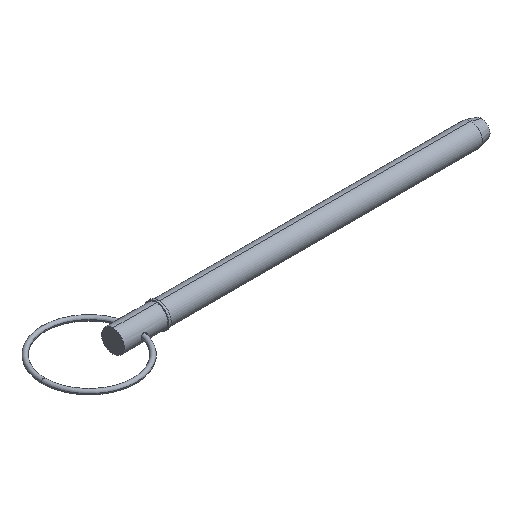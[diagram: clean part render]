
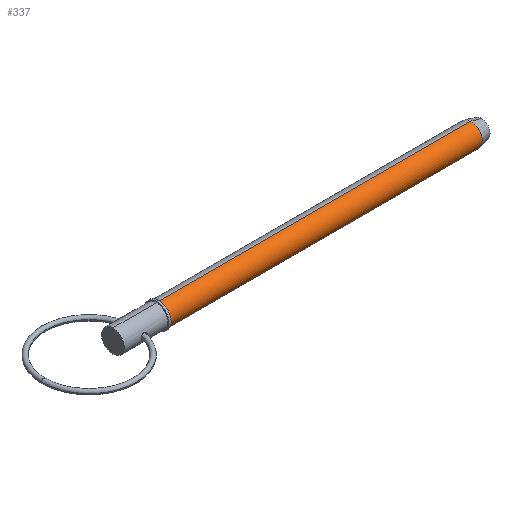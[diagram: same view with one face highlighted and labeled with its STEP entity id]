
A CAD part, isometric view. The second image highlights one B-rep face of the part: STEP entity #337.
In plain terms, the highlighted cylindrical face has radius 6.35 mm (diameter 12.7 mm), a partial arc.
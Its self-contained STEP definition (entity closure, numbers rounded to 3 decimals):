
#31 = DIRECTION ( 'NONE',  ( 0., 0., -1. ) ) ;
#32 = VERTEX_POINT ( 'NONE', #594 ) ;
#37 = CIRCLE ( 'NONE', #865, 6.35 ) ;
#38 = EDGE_LOOP ( 'NONE', ( #410, #492, #361, #437 ) ) ;
#74 = DIRECTION ( 'NONE',  ( 1., 0., 0. ) ) ;
#77 = CARTESIAN_POINT ( 'NONE',  ( 25.7, 0., 0. ) ) ;
#124 = LINE ( 'NONE', #210, #884 ) ;
#154 = AXIS2_PLACEMENT_3D ( 'NONE', #760, #763, #31 ) ;
#157 = EDGE_CURVE ( 'NONE', #32, #505, #124, .T. ) ;
#209 = LINE ( 'NONE', #537, #700 ) ;
#210 = CARTESIAN_POINT ( 'NONE',  ( 0., 0., -6.35 ) ) ;
#247 = FACE_OUTER_BOUND ( 'NONE', #38, .T. ) ;
#260 = CARTESIAN_POINT ( 'NONE',  ( 25.7, 0., 6.35 ) ) ;
#268 = CARTESIAN_POINT ( 'NONE',  ( 200.755, 0., 6.35 ) ) ;
#283 = VERTEX_POINT ( 'NONE', #260 ) ;
#289 = EDGE_CURVE ( 'NONE', #890, #505, #37, .T. ) ;
#297 = EDGE_CURVE ( 'NONE', #283, #32, #735, .T. ) ;
#337 = ADVANCED_FACE ( 'NONE', ( #247 ), #444, .T. ) ;
#361 = ORIENTED_EDGE ( 'NONE', *, *, #157, .T. ) ;
#410 = ORIENTED_EDGE ( 'NONE', *, *, #600, .F. ) ;
#417 = AXIS2_PLACEMENT_3D ( 'NONE', #77, #1050, #970 ) ;
#437 = ORIENTED_EDGE ( 'NONE', *, *, #289, .F. ) ;
#444 = CYLINDRICAL_SURFACE ( 'NONE', #154, 6.35 ) ;
#480 = CARTESIAN_POINT ( 'NONE',  ( 200.755, 0., 0. ) ) ;
#492 = ORIENTED_EDGE ( 'NONE', *, *, #297, .T. ) ;
#505 = VERTEX_POINT ( 'NONE', #838 ) ;
#537 = CARTESIAN_POINT ( 'NONE',  ( 0., 0., 6.35 ) ) ;
#565 = DIRECTION ( 'NONE',  ( 0., 0., -1. ) ) ;
#594 = CARTESIAN_POINT ( 'NONE',  ( 25.7, 0., -6.35 ) ) ;
#600 = EDGE_CURVE ( 'NONE', #283, #890, #209, .T. ) ;
#700 = VECTOR ( 'NONE', #856, 1000. ) ;
#735 = CIRCLE ( 'NONE', #417, 6.35 ) ;
#760 = CARTESIAN_POINT ( 'NONE',  ( 0., 0., 0. ) ) ;
#763 = DIRECTION ( 'NONE',  ( 1., 0., 0. ) ) ;
#778 = DIRECTION ( 'NONE',  ( 1., 0., 0. ) ) ;
#838 = CARTESIAN_POINT ( 'NONE',  ( 200.755, 0., -6.35 ) ) ;
#856 = DIRECTION ( 'NONE',  ( 1., 0., 0. ) ) ;
#865 = AXIS2_PLACEMENT_3D ( 'NONE', #480, #74, #565 ) ;
#884 = VECTOR ( 'NONE', #778, 1000. ) ;
#890 = VERTEX_POINT ( 'NONE', #268 ) ;
#970 = DIRECTION ( 'NONE',  ( 0., 0., -1. ) ) ;
#1050 = DIRECTION ( 'NONE',  ( 1., 0., 0. ) ) ;
